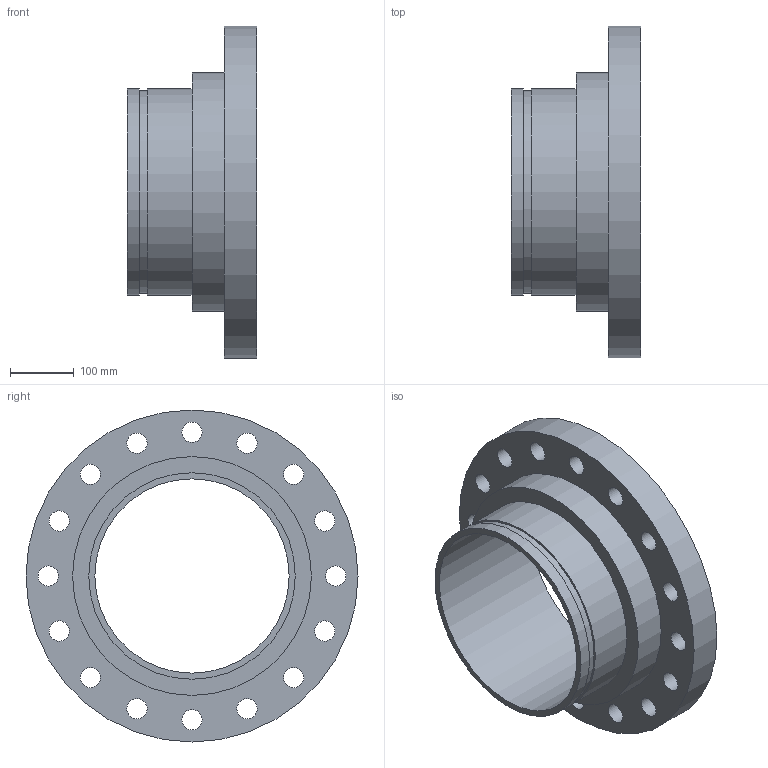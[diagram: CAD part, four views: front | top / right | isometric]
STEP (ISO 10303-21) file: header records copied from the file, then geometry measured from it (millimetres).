
FILE_DESCRIPTION(/* description */ ('VIC FLANGE ADAPTER No 46F','CAx-IF Rec.Pracs.---Representation and Presentation of Product Manufacturing Information (PMI)---4.0---2014-10-13'),/* implementation_level */ '2;1');
FILE_NAME(/* name */ 'C:\Users\kkamble\AppData\Roaming\Autodesk\ApplicationPlugins\Back Up\Victaulic_IPS_Flanged Adapter Nipple_CL 300 FF_No 46F (OGSxFLG)\Victaulic_IPS_Flanged Adapter Nipple_CL 300 FF_No 46F (OGSxFLG)_12 (300).stp',/* time_stamp */ '2020-07-26T22:25:10+06:00',/* author */ ('CONSTRUCTION PIPING SERVICES'),/* organization */ ('Victaulic'),/* preprocessor_version */ 'ST-DEVELOPER v17.2',/* originating_system */ 'Autodesk Inventor 2019',/* authorisation */ '');
FILE_SCHEMA (('AP242_MANAGED_MODEL_BASED_3D_ENGINEERING_MIM_LF { 1 0 10303 442 1 1 4 }'));
Length unit declared in the file: inch
Products named in the file (1): 046F-12.0
Bounding box: 203.2 x 520.7 x 520.7 mm (x, y, z)
Volume: 9280910.4 mm3; surface area: 781918.1 mm2
Topology: 1 solids, 1 shells, 28 faces, 78 edges, 56 vertices
Faces by surface type: cylinder 22, plane 6
Full cylindrical faces by diameter (mm): 31.75 x16, 304.8 x1, 318.287 x1, 323.85 x2, 374.65 x1, 520.7 x1
Entity records: 1102 total; most frequent: DIRECTION 192, CARTESIAN_POINT 163, ORIENTED_EDGE 156, AXIS2_PLACEMENT_3D 85, EDGE_CURVE 78, EDGE_LOOP 66, CIRCLE 56, VERTEX_POINT 56
